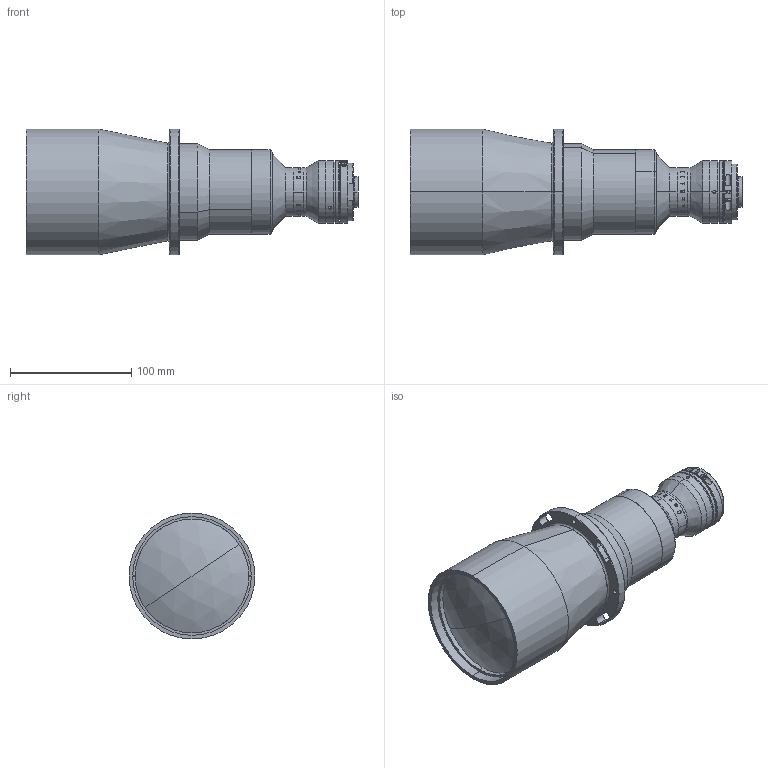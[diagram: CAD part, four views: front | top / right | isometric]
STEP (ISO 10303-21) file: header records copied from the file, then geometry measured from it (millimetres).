
FILE_DESCRIPTION (( 'STEP AP203' ), '1' );
FILE_NAME ('XF-PTL08016-C.STEP', '2020-05-09T02:10:12', ( 'puyufan' ), ( '' ), 'SwSTEP 2.0', 'SolidWorks 2014', '' );
FILE_SCHEMA (( 'CONFIG_CONTROL_DESIGN' ));
Length unit declared in the file: millimetre
Products named in the file (1): XF-PTL08016-C
Bounding box: 274.31 x 104 x 104 mm (x, y, z)
Surface area: 103334.1 mm2 (no closed solid volume)
Topology: 0 solids, 30 shells, 202 faces, 1029 edges, 860 vertices
Faces by surface type: cylinder 108, plane 55, cone 16, torus 14, bspline 5, sphere 4
Entity records: 16973 total; most frequent: CARTESIAN_POINT 9183, DIRECTION 1521, ORIENTED_EDGE 1396, EDGE_CURVE 1027, VERTEX_POINT 860, AXIS2_PLACEMENT_3D 604, CIRCLE 406, LINE 313
